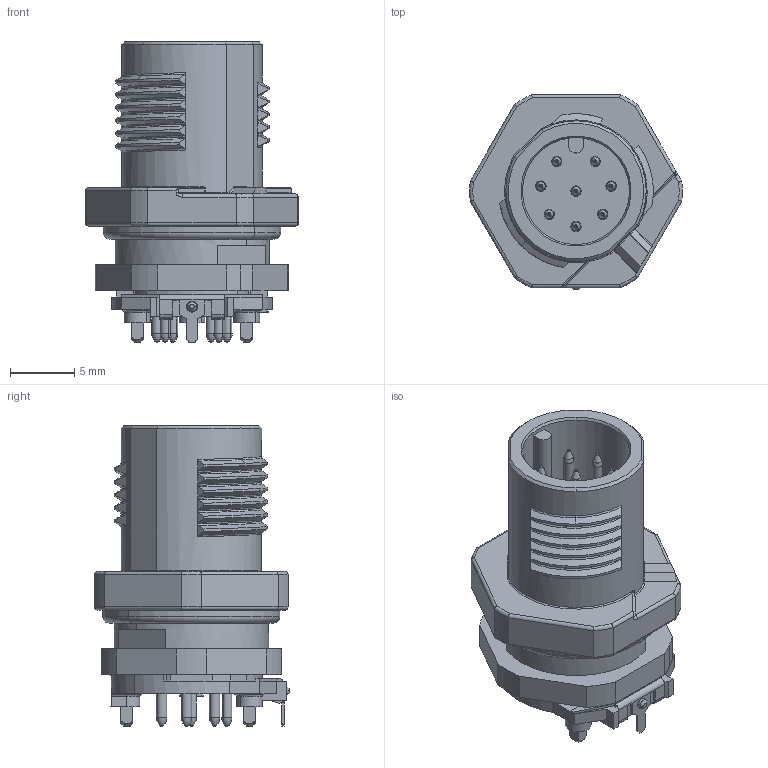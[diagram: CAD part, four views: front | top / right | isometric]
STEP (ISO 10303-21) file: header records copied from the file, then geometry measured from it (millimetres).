
FILE_DESCRIPTION(('SolidDesigner STEP Export'),'2;1');
FILE_NAME('1557578.stp','2009-02-26T17:36:38',(''),(''),'CoCreate Modeling STEP processor for AP214 (Solid Model)','CoCreate Modeling 16.00A 16-Aug-2008 (C) Parametric Technology GmbH','');
FILE_SCHEMA(('AUTOMOTIVE_DESIGN { 1 0 10303 214 1 1 1 1 }'));
Length unit declared in the file: millimetre
Products named in the file (2): 1557578
Assembly tree (1 placements, depth 2):
  1557578
    1557578
Bounding box: 16.49 x 15.1 x 23.3 mm (x, y, z)
Volume: 2108.2 mm3; surface area: 1919.6 mm2
Topology: 1 solids, 1 shells, 553 faces, 1413 edges, 888 vertices
Faces by surface type: plane 192, cylinder 141, torus 91, bspline 79, cone 29, extrusion 17, sphere 4
Entity records: 25896 total; most frequent: CARTESIAN_POINT 9579, ORIENTED_EDGE 2816, DIRECTION 2022, EDGE_CURVE 1408, VERTEX_POINT 888, AXIS2_PLACEMENT_3D 698, VECTOR 626, LINE 609
